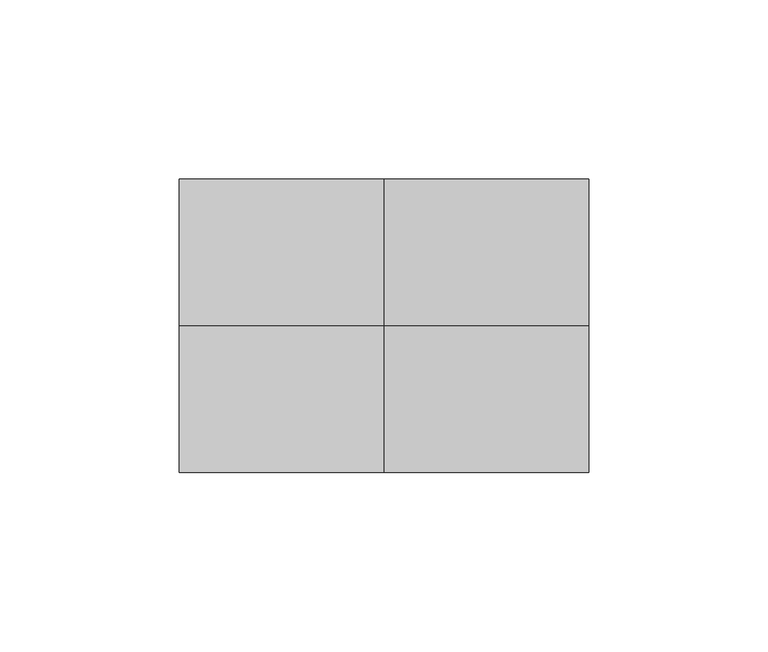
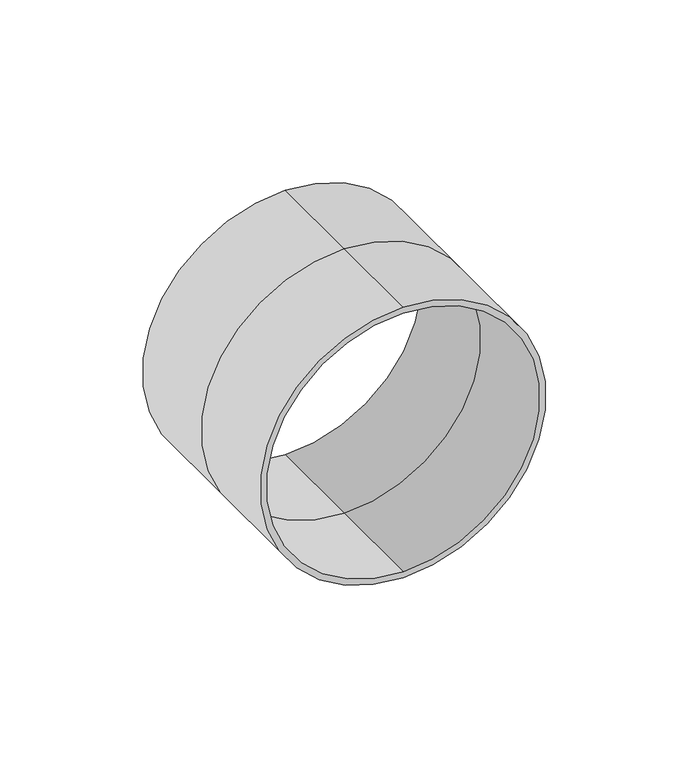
"""IFC4 building model written with IfcOpenShell, lengths in millimetres: pipe fitting geometry, Wavin_PipeAccessory_OsmaAccessoriesPipeFlash : Φ110 Vertical."""

from ifc_helpers import new_model, si_unit, frame, origin, place, context, project, spatial, polyline, circle_curve, source, transform, mapped, element, save
from ifc_brep_helpers import plane_surface, cylinder_surface, revolved_surface, advanced_brep


def pipe_fitting_5220689f(model_context):
    return source(origin(), model_context, "Body", "AdvancedBrep", [
        advanced_brep(
        [(0.0, -40.9845071, -112.5), (0.0, -40.9845071, 2.5), (0.0, -40.9845071, -110.0), (0.0, -40.9845071, 0.0), (0.0, 0.0, -110.0), (0.0, 0.0, 0.0), (0.0, 0.0, -112.5), (0.0, 0.0, 2.5), (0.0, 41.0228768, -112.5), (0.0, 41.0228768, 2.5), (0.0, 41.0228768, -110.0), (0.0, 41.0228768, 0.0)],
        [
            (0, 1, circle_curve(frame((0.0, -40.9845071, -55.0), z_axis=(0.0, -1.0, 0.0), x_axis=(0.0, 0.0, 1.0)), 57.5)),
            (1, 0, circle_curve(frame((0.0, -40.9845071, -55.0), z_axis=(0.0, -1.0, 0.0), x_axis=(0.0, 0.0, 1.0)), 57.5)),
            (2, 3, circle_curve(frame((0.0, -40.9845071, -55.0), z_axis=(0.0, 1.0, 0.0), x_axis=(0.0, 0.0, 1.0)), 55.0)),
            (3, 2, circle_curve(frame((0.0, -40.9845071, -55.0), z_axis=(0.0, 1.0, 0.0), x_axis=(0.0, 0.0, 1.0)), 55.0)),
            (2, 4),
            (4, 5, circle_curve(frame((0.0, 0.0, -55.0), z_axis=(0.0, 1.0, 0.0), x_axis=(0.0, 0.0, 1.0)), 55.0)),
            (5, 3),
            (5, 4, circle_curve(frame((0.0, 0.0, -55.0), z_axis=(0.0, 1.0, 0.0), x_axis=(0.0, 0.0, 1.0)), 55.0)),
            (0, 6),
            (6, 7, circle_curve(frame((0.0, 0.0, -55.0), z_axis=(0.0, -1.0, 0.0), x_axis=(0.0, 0.0, 1.0)), 57.5)),
            (7, 1),
            (7, 6, circle_curve(frame((0.0, 0.0, -55.0), z_axis=(0.0, -1.0, 0.0), x_axis=(0.0, 0.0, 1.0)), 57.5)),
            (8, 9, circle_curve(frame((0.0, 41.0228768, -55.0), z_axis=(0.0, 1.0, 0.0), x_axis=(0.0, 0.0, 1.0)), 57.5)),
            (9, 8, circle_curve(frame((0.0, 41.0228768, -55.0), z_axis=(0.0, 1.0, 0.0), x_axis=(0.0, 0.0, 1.0)), 57.5)),
            (10, 11, circle_curve(frame((0.0, 41.0228768, -55.0), z_axis=(0.0, -1.0, 0.0), x_axis=(0.0, 0.0, 1.0)), 55.0)),
            (11, 10, circle_curve(frame((0.0, 41.0228768, -55.0), z_axis=(0.0, -1.0, 0.0), x_axis=(0.0, 0.0, 1.0)), 55.0)),
            (4, 10),
            (11, 5),
            (6, 8),
            (9, 7),
        ],
        [
            plane_surface(frame((0.0, -40.9845071, -55.0), z_axis=(0.0, -1.0, 0.0), x_axis=(1.0, 0.0, 0.0))),
            revolved_surface(polyline([(0.0, 0.0, 0.0), (0.0, -40.9845071, 0.0)]), (0.0, -40.9845071, -55.0), (0.0, 1.0, 0.0)),
            cylinder_surface(frame((0.0, -40.9845071, -55.0), z_axis=(0.0, -1.0, 0.0), x_axis=(0.0, 0.0, 1.0)), 57.5),
            plane_surface(frame((0.0, 41.0228768, -55.0), z_axis=(0.0, 1.0, 0.0), x_axis=(1.0, 0.0, 0.0))),
            revolved_surface(polyline([(0.0, 41.0228768, 0.0), (0.0, 0.0, 0.0)]), (0.0, 0.0, -55.0), (0.0, 1.0, 0.0)),
            cylinder_surface(frame((0.0, 0.0, -55.0), z_axis=(0.0, -1.0, 0.0), x_axis=(0.0, 0.0, 1.0)), 57.5),
        ],
        [
            (0, [[1, 2], [3, 4]]),
            (1, [[-3, 5, 6, 7]]),
            (1, [[-4, -7, 8, -5]]),
            (2, [[-1, 9, 10, 11]]),
            (2, [[-2, -11, 12, -9]]),
            (3, [[13, 14], [15, 16]]),
            (4, [[-6, 17, -16, 18]]),
            (4, [[-8, -18, -15, -17]]),
            (5, [[-10, 19, -14, 20]]),
            (5, [[-12, -20, -13, -19]]),
        ],
    ),
    ])


if __name__ == "__main__":
    model = new_model("IFC4")
    model_context = context("Model", 3, world=origin())
    ifc_project = project(units=[si_unit("LENGTHUNIT", "METRE", prefix="MILLI")], contexts=[model_context])
    site = spatial("IfcSite", under=ifc_project)
    building = spatial("IfcBuilding", under=site)
    placement = place(None, origin())
    pipe_fitting_shape = pipe_fitting_5220689f(model_context)
    element("IfcPipeFitting", 1, ObjectType="Wavin_PipeAccessory_OsmaAccessoriesPipeFlash : Φ110 Vertical", at=placement, inside=building, context=model_context, shape_type="MappedRepresentation", body=[
        mapped(pipe_fitting_shape, transform((0.0, 0.0, 0.0), x_axis=(1.0, 0.0, 0.0), y_axis=(0.0, 1.0, 0.0), z_axis=(0.0, 0.0, 1.0))),
    ])
    save(model, "model.ifc")
